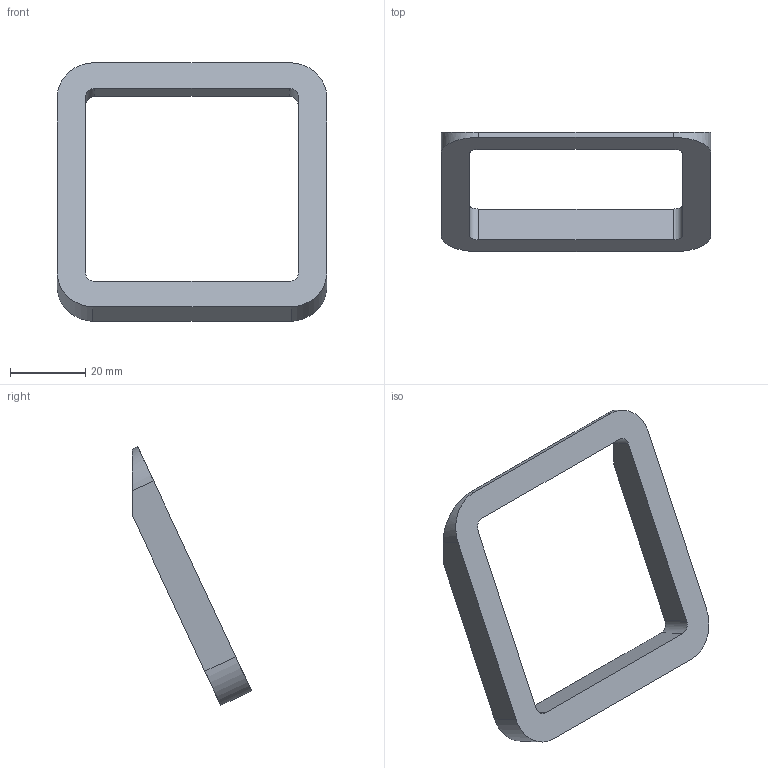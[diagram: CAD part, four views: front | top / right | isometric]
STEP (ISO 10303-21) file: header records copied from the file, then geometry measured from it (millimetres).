
FILE_DESCRIPTION( ( 'STEP AP214' ), '1' );
FILE_NAME( 'C:/Users/swati/Desktop/buena/9207444/9207445.stp', ' ', ( ' ' ), ( ' ' ), 'PSStep 15.0.47', 'PARTsolutions', ' ' );
FILE_SCHEMA( ( 'AUTOMOTIVE_DESIGN { 1 0 10303 214 1 1 1 1 }' ) );
Length unit declared in the file: millimetre
Products named in the file (2): 95 ; _
Assembly tree (1 placements, depth 2):
  95 
    _
Bounding box: 71.5 x 31.58 x 68.59 mm (x, y, z)
Volume: 13303.7 mm3; surface area: 7496.9 mm2
Topology: 1 solids, 1 shells, 23 faces, 60 edges, 40 vertices
Faces by surface type: plane 13, cylinder 10
Full cylindrical faces by diameter (mm): 4 x2
Entity records: 930 total; most frequent: DIRECTION 128, CARTESIAN_POINT 123, ORIENTED_EDGE 116, EDGE_CURVE 58, AXIS2_PLACEMENT_3D 45, VERTEX_POINT 40, LINE 38, VECTOR 38
